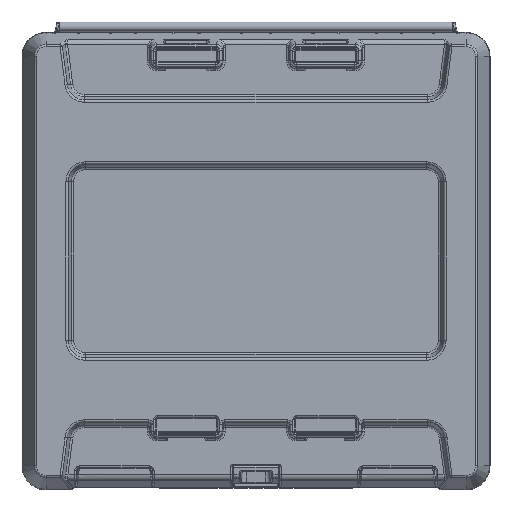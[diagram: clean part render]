
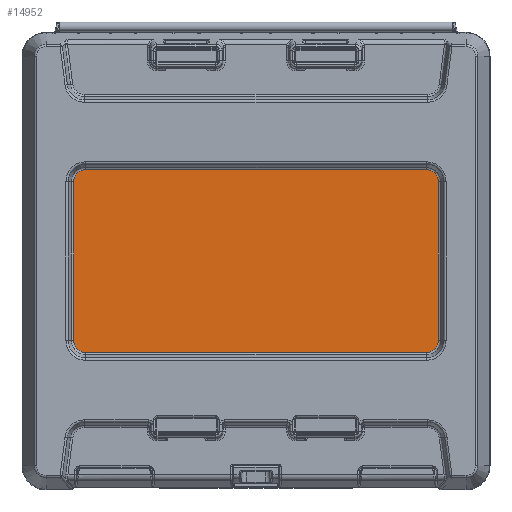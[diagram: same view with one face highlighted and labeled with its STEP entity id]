
A CAD part, top view. The second image highlights one B-rep face of the part: STEP entity #14952.
In plain terms, the highlighted planar face has unit normal (0, 0, 1).
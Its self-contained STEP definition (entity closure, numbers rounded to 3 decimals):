
#7711=PLANE('',#153842);
#14952=ADVANCED_FACE('',(#25966),#7711,.F.);
#25966=FACE_OUTER_BOUND('',#35094,.T.);
#35094=EDGE_LOOP('',(#79331,#79332,#79333,#79334,#79335,#79336,#79337,#79338));
#40359=CIRCLE('',#153838,9.96);
#40360=CIRCLE('',#153839,9.96);
#40361=CIRCLE('',#153840,9.96);
#40362=CIRCLE('',#153841,9.96);
#79331=ORIENTED_EDGE('',*,*,#117212,.T.);
#79332=ORIENTED_EDGE('',*,*,#117213,.T.);
#79333=ORIENTED_EDGE('',*,*,#117214,.T.);
#79334=ORIENTED_EDGE('',*,*,#117215,.T.);
#79335=ORIENTED_EDGE('',*,*,#117216,.T.);
#79336=ORIENTED_EDGE('',*,*,#117217,.T.);
#79337=ORIENTED_EDGE('',*,*,#117218,.T.);
#79338=ORIENTED_EDGE('',*,*,#117219,.T.);
#98302=VERTEX_POINT('',#279850);
#98303=VERTEX_POINT('',#279851);
#98304=VERTEX_POINT('',#279853);
#98305=VERTEX_POINT('',#279855);
#98306=VERTEX_POINT('',#279857);
#98307=VERTEX_POINT('',#279859);
#98308=VERTEX_POINT('',#279861);
#98309=VERTEX_POINT('',#279863);
#117212=EDGE_CURVE('',#98302,#98303,#130762,.T.);
#117213=EDGE_CURVE('',#98303,#98304,#40359,.T.);
#117214=EDGE_CURVE('',#98304,#98305,#130763,.T.);
#117215=EDGE_CURVE('',#98305,#98306,#40360,.T.);
#117216=EDGE_CURVE('',#98306,#98307,#130764,.T.);
#117217=EDGE_CURVE('',#98307,#98308,#40361,.T.);
#117218=EDGE_CURVE('',#98308,#98309,#130765,.T.);
#117219=EDGE_CURVE('',#98309,#98302,#40362,.T.);
#130762=LINE('',#279849,#141840);
#130763=LINE('',#279854,#141841);
#130764=LINE('',#279858,#141842);
#130765=LINE('',#279862,#141843);
#141840=VECTOR('',#187201,1.);
#141841=VECTOR('',#187204,1.);
#141842=VECTOR('',#187207,1.);
#141843=VECTOR('',#187210,1.);
#153838=AXIS2_PLACEMENT_3D('',#279852,#187202,#187203);
#153839=AXIS2_PLACEMENT_3D('',#279856,#187205,#187206);
#153840=AXIS2_PLACEMENT_3D('',#279860,#187208,#187209);
#153841=AXIS2_PLACEMENT_3D('',#279864,#187211,#187212);
#153842=AXIS2_PLACEMENT_3D('',#279865,#187213,#187214);
#187201=DIRECTION('',(1.,0.,0.));
#187202=DIRECTION('',(0.,0.,1.));
#187203=DIRECTION('',(-1.,0.,0.));
#187204=DIRECTION('',(0.,1.,0.));
#187205=DIRECTION('',(0.,0.,1.));
#187206=DIRECTION('',(-1.,0.,0.));
#187207=DIRECTION('',(-1.,0.,0.));
#187208=DIRECTION('',(0.,0.,1.));
#187209=DIRECTION('',(1.,0.,0.));
#187210=DIRECTION('',(0.,-1.,0.));
#187211=DIRECTION('',(0.,0.,1.));
#187212=DIRECTION('',(1.,0.,0.));
#187213=DIRECTION('',(0.,0.,-1.));
#187214=DIRECTION('',(-1.,0.,0.));
#279849=CARTESIAN_POINT('',(0.,-271.46,25.));
#279850=CARTESIAN_POINT('',(-142.,-271.46,25.));
#279851=CARTESIAN_POINT('',(142.,-271.46,25.));
#279852=CARTESIAN_POINT('',(142.,-261.5,25.));
#279853=CARTESIAN_POINT('',(151.96,-261.5,25.));
#279854=CARTESIAN_POINT('',(151.96,0.,25.));
#279855=CARTESIAN_POINT('',(151.96,-129.,25.));
#279856=CARTESIAN_POINT('',(142.,-129.,25.));
#279857=CARTESIAN_POINT('',(142.,-119.04,25.));
#279858=CARTESIAN_POINT('',(0.,-119.04,25.));
#279859=CARTESIAN_POINT('',(-142.,-119.04,25.));
#279860=CARTESIAN_POINT('',(-142.,-129.,25.));
#279861=CARTESIAN_POINT('',(-151.96,-129.,25.));
#279862=CARTESIAN_POINT('',(-151.96,0.,25.));
#279863=CARTESIAN_POINT('',(-151.96,-261.5,25.));
#279864=CARTESIAN_POINT('',(-142.,-261.5,25.));
#279865=CARTESIAN_POINT('',(0.,0.,25.));
